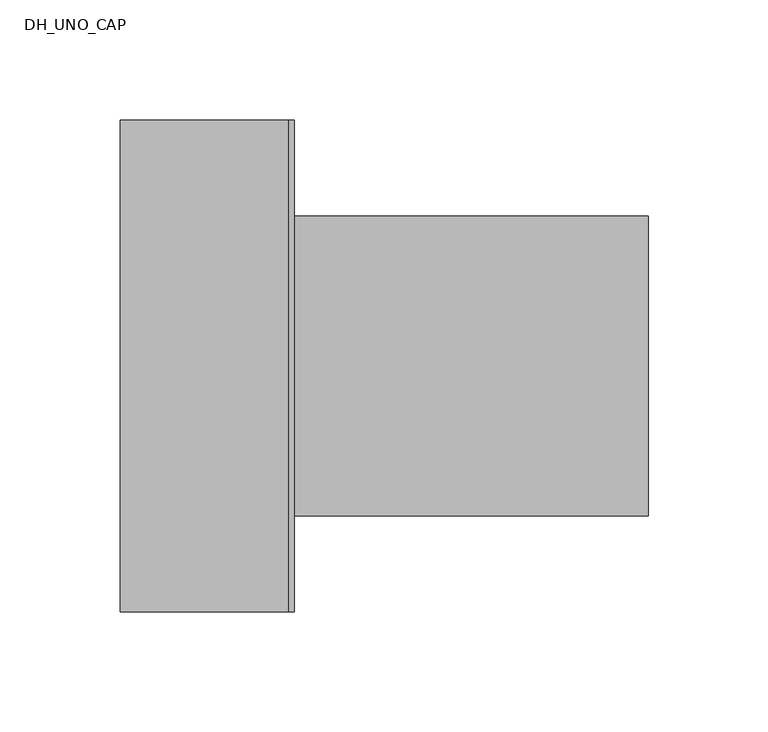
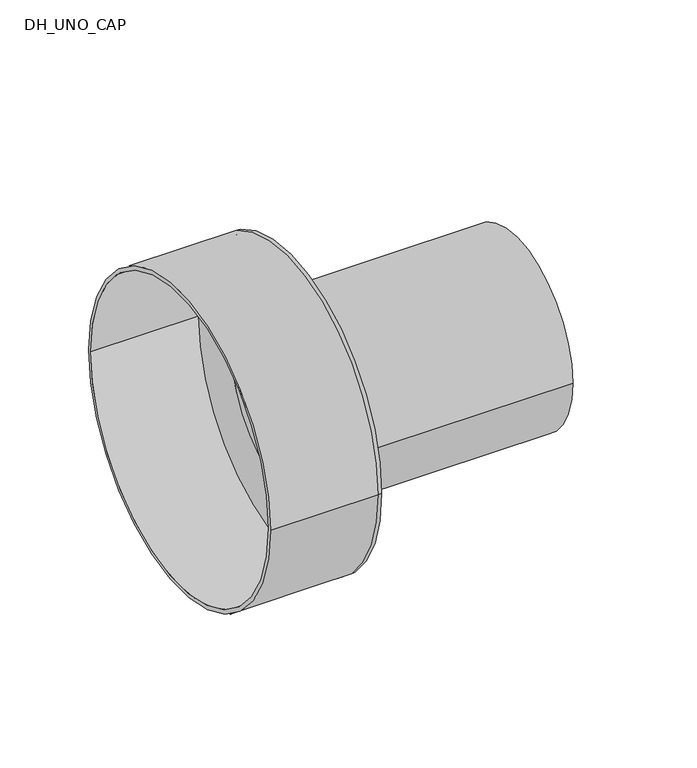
"""IFC4 building model written with IfcOpenShell, lengths in millimetres: pipe fitting geometry, DH_UNO_CAP : RAUVIPEX UNO 11 Heating - Solid Cap."""

from ifc_helpers import new_model, si_unit, point, frame, origin, origin_2d, place, context, project, spatial, polyline, circle_curve, trimmed, segment, composite_curve, outline, extrude, source, transform, mapped, element, save
from ifc_brep_helpers import plane_surface, cylinder_surface, revolved_surface, advanced_brep


def dh_uno_cap_505df08c(model_context):
    return source(origin(), model_context, "Body", "SolidModel", [
        extrude(outline(composite_curve([segment(trimmed(circle_curve(origin_2d(), 62.5), [point((-62.5, 0.0))], [point((62.5, 0.0))], False, "CARTESIAN"), True, "CONTINUOUS"), segment(trimmed(circle_curve(origin_2d(), 62.5), [point((62.5, 0.0))], [point((-62.5, 0.0))], False, "CARTESIAN"), True, "CONTINUOUS")], self_intersect=False), holes=[composite_curve([segment(trimmed(circle_curve(origin_2d(), 51.1), [point((-51.1, 0.0))], [point((51.1, 0.0))], True, "CARTESIAN"), True, "CONTINUOUS"), segment(trimmed(circle_curve(origin_2d(), 51.1), [point((51.1, 0.0))], [point((-51.1, 0.0))], True, "CARTESIAN"), True, "CONTINUOUS")], self_intersect=False)]), frame((0.0, 0.0, 0.0), z_axis=(1.0, 0.0, 0.0), x_axis=(0.0, 1.0, 0.0)), (0.0, 0.0, 1.0), 150.0),
        advanced_brep(
        [(-70.0, -102.5, 0.0), (-70.0, 102.5, 0.0), (-70.0, -100.0, 0.0), (-70.0, 100.0, 0.0), (0.0, -100.0, 0.0), (0.0, 100.0, 0.0), (0.0, -102.5, 0.0), (0.0, 102.5, 0.0), (0.0, 62.5, 0.0), (0.0, -62.5, 0.0), (2.5, -102.5, 0.0), (2.5, 102.5, 0.0), (2.5, -62.5, 0.0), (2.5, 62.5, 0.0)],
        [
            (0, 1, circle_curve(frame((-70.0, 0.0, 0.0), z_axis=(-1.0, 0.0, 0.0), x_axis=(0.0, 1.0, 0.0)), 102.5)),
            (1, 0, circle_curve(frame((-70.0, 0.0, 0.0), z_axis=(-1.0, 0.0, 0.0), x_axis=(0.0, 1.0, 0.0)), 102.5)),
            (2, 3, circle_curve(frame((-70.0, 0.0, 0.0), z_axis=(1.0, 0.0, 0.0), x_axis=(0.0, 1.0, 0.0)), 100.0)),
            (3, 2, circle_curve(frame((-70.0, 0.0, 0.0), z_axis=(1.0, 0.0, 0.0), x_axis=(0.0, 1.0, 0.0)), 100.0)),
            (2, 4),
            (4, 5, circle_curve(frame((0.0, 0.0, 0.0), z_axis=(1.0, 0.0, 0.0), x_axis=(0.0, 1.0, 0.0)), 100.0)),
            (5, 3),
            (5, 4, circle_curve(frame((0.0, 0.0, 0.0), z_axis=(1.0, 0.0, 0.0), x_axis=(0.0, 1.0, 0.0)), 100.0)),
            (0, 6),
            (6, 7, circle_curve(frame((0.0, 0.0, 0.0), z_axis=(-1.0, 0.0, 0.0), x_axis=(0.0, 1.0, 0.0)), 102.5)),
            (7, 1),
            (7, 6, circle_curve(frame((0.0, 0.0, 0.0), z_axis=(-1.0, 0.0, 0.0), x_axis=(0.0, 1.0, 0.0)), 102.5)),
            (8, 9, circle_curve(frame((0.0, 0.0, 0.0), z_axis=(1.0, 0.0, 0.0), x_axis=(0.0, 1.0, 0.0)), 62.5)),
            (9, 8, circle_curve(frame((0.0, 0.0, 0.0), z_axis=(1.0, 0.0, 0.0), x_axis=(0.0, 1.0, 0.0)), 62.5)),
            (10, 11, circle_curve(frame((2.5, 0.0, 0.0), z_axis=(1.0, 0.0, 0.0), x_axis=(0.0, 1.0, 0.0)), 102.5)),
            (11, 10, circle_curve(frame((2.5, 0.0, 0.0), z_axis=(1.0, 0.0, 0.0), x_axis=(0.0, 1.0, 0.0)), 102.5)),
            (12, 13, circle_curve(frame((2.5, 0.0, 0.0), z_axis=(-1.0, 0.0, 0.0), x_axis=(0.0, 1.0, 0.0)), 62.5)),
            (13, 12, circle_curve(frame((2.5, 0.0, 0.0), z_axis=(-1.0, 0.0, 0.0), x_axis=(0.0, 1.0, 0.0)), 62.5)),
            (11, 7),
            (6, 10),
            (8, 13),
            (12, 9),
        ],
        [
            plane_surface(frame((-70.0, 0.0, 0.0), z_axis=(-1.0, 0.0, 0.0), x_axis=(0.0, 0.0, 1.0))),
            revolved_surface(polyline([(0.0, 100.0, 0.0), (-70.0, 100.0, 0.0)]), (-70.0, 0.0, 0.0), (1.0, 0.0, 0.0)),
            cylinder_surface(frame((-70.0, 0.0, 0.0), z_axis=(-1.0, 0.0, 0.0), x_axis=(0.0, 1.0, 0.0)), 102.5),
            plane_surface(frame((0.0, 0.0, 0.0), z_axis=(-1.0, 0.0, 0.0), x_axis=(0.0, 0.0, 1.0))),
            plane_surface(frame((2.5, 0.0, 0.0), z_axis=(1.0, 0.0, 0.0), x_axis=(0.0, 0.0, 1.0))),
            cylinder_surface(frame((0.0, 0.0, 0.0), z_axis=(-1.0, 0.0, 0.0), x_axis=(0.0, 1.0, 0.0)), 102.5),
            revolved_surface(polyline([(0.0, 62.5, 0.0), (2.5, 62.5, 0.0)]), (0.0, 0.0, 0.0), (-1.0, 0.0, 0.0)),
        ],
        [
            (0, [[1, 2], [3, 4]]),
            (1, [[-3, 5, 6, 7]]),
            (1, [[-4, -7, 8, -5]]),
            (2, [[-1, 9, 10, 11]]),
            (2, [[-2, -11, 12, -9]]),
            (3, [[-6, -8], [13, 14]]),
            (4, [[15, 16], [17, 18]]),
            (5, [[-16, 19, -10, 20]]),
            (5, [[-15, -20, -12, -19]]),
            (6, [[21, -17, 22, -13]]),
            (6, [[-21, -14, -22, -18]]),
        ],
    ),
    ])


if __name__ == "__main__":
    model = new_model("IFC4")
    model_context = context("Model", 3, world=origin())
    ifc_project = project(units=[si_unit("LENGTHUNIT", "METRE", prefix="MILLI")], contexts=[model_context])
    site = spatial("IfcSite", under=ifc_project)
    building = spatial("IfcBuilding", under=site)
    placement = place(None, origin())
    dh_uno_cap_shape = dh_uno_cap_505df08c(model_context)
    element("IfcPipeFitting", 1, ObjectType="DH_UNO_CAP : RAUVIPEX UNO 11 Heating - Solid Cap", at=placement, inside=building, context=model_context, shape_type="MappedRepresentation", body=[
        mapped(dh_uno_cap_shape, transform((0.0, 0.0, 0.0), x_axis=(1.0, 0.0, 0.0), y_axis=(0.0, 1.0, 0.0), z_axis=(0.0, 0.0, 1.0))),
    ])
    save(model, "model.ifc")
